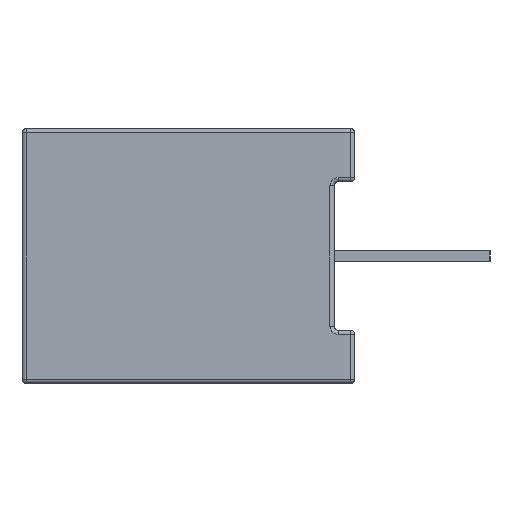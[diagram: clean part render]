
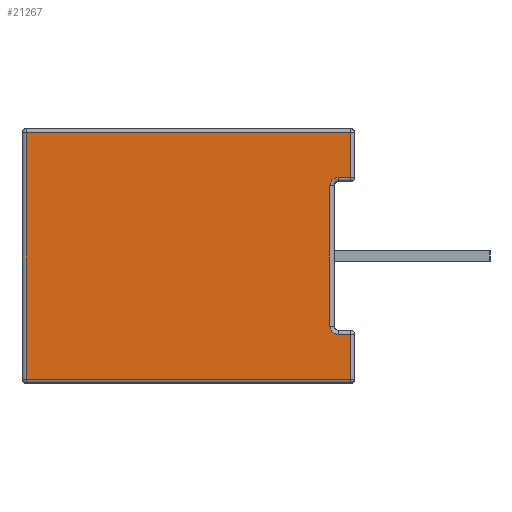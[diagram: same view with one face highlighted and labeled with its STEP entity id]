
A CAD part, left-side view. The second image highlights one B-rep face of the part: STEP entity #21267.
In plain terms, the highlighted planar face has unit normal (-1, 0, 0).
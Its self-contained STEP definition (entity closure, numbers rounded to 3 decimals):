
#480 = VERTEX_POINT ( 'NONE', #28809 ) ;
#870 = EDGE_LOOP ( 'NONE', ( #23750, #3345, #30536, #27809, #31950, #17855, #27903, #18422, #16939, #12593 ) ) ;
#992 = EDGE_CURVE ( 'NONE', #16763, #3542, #5324, .T. ) ;
#1749 = EDGE_CURVE ( 'NONE', #27770, #5372, #6080, .T. ) ;
#1977 = CARTESIAN_POINT ( 'NONE',  ( -12.05, 7.622, 3.01 ) ) ;
#2032 = CARTESIAN_POINT ( 'NONE',  ( -12.05, -0.1, -1.91 ) ) ;
#2306 = LINE ( 'NONE', #4430, #5248 ) ;
#2703 = DIRECTION ( 'NONE',  ( -1., 0., 0. ) ) ;
#2885 = CARTESIAN_POINT ( 'NONE',  ( -12.05, -0.1, -1.71 ) ) ;
#3345 = ORIENTED_EDGE ( 'NONE', *, *, #19711, .T. ) ;
#3542 = VERTEX_POINT ( 'NONE', #6099 ) ;
#4318 = DIRECTION ( 'NONE',  ( 0., -1., 0. ) ) ;
#4430 = CARTESIAN_POINT ( 'NONE',  ( -12.05, -0.408, 3.11 ) ) ;
#4590 = DIRECTION ( 'NONE',  ( 0., 0., -1. ) ) ;
#4772 = CARTESIAN_POINT ( 'NONE',  ( -12.05, 7.622, 3.11 ) ) ;
#5248 = VECTOR ( 'NONE', #10623, 1000. ) ;
#5324 = LINE ( 'NONE', #1977, #30354 ) ;
#5372 = VERTEX_POINT ( 'NONE', #2032 ) ;
#5728 = CIRCLE ( 'NONE', #23803, 0.2 ) ;
#6080 = CIRCLE ( 'NONE', #25831, 0.2 ) ;
#6099 = CARTESIAN_POINT ( 'NONE',  ( -12.05, 7.522, 3.01 ) ) ;
#6632 = CARTESIAN_POINT ( 'NONE',  ( -12.05, 0.1, 1.71 ) ) ;
#6735 = PLANE ( 'NONE',  #9307 ) ;
#7349 = CARTESIAN_POINT ( 'NONE',  ( -12.05, -0.1, 1.91 ) ) ;
#7633 = DIRECTION ( 'NONE',  ( 0., 1., 0. ) ) ;
#8695 = DIRECTION ( 'NONE',  ( 0., 0., 1. ) ) ;
#9307 = AXIS2_PLACEMENT_3D ( 'NONE', #4772, #31312, #9914 ) ;
#9821 = LINE ( 'NONE', #9990, #23953 ) ;
#9914 = DIRECTION ( 'NONE',  ( 0., 0., -1. ) ) ;
#9983 = LINE ( 'NONE', #28724, #24238 ) ;
#9990 = CARTESIAN_POINT ( 'NONE',  ( -12.05, 0., -1.91 ) ) ;
#10524 = DIRECTION ( 'NONE',  ( 0., 0., -1. ) ) ;
#10623 = DIRECTION ( 'NONE',  ( 0., 0., 1. ) ) ;
#10705 = LINE ( 'NONE', #29262, #23905 ) ;
#11191 = EDGE_CURVE ( 'NONE', #27770, #16516, #33436, .T. ) ;
#11328 = EDGE_CURVE ( 'NONE', #12758, #16516, #5728, .T. ) ;
#12593 = ORIENTED_EDGE ( 'NONE', *, *, #33108, .T. ) ;
#12747 = FACE_OUTER_BOUND ( 'NONE', #870, .T. ) ;
#12758 = VERTEX_POINT ( 'NONE', #7349 ) ;
#14477 = VERTEX_POINT ( 'NONE', #26769 ) ;
#14516 = EDGE_CURVE ( 'NONE', #3542, #14477, #10705, .T. ) ;
#14684 = VERTEX_POINT ( 'NONE', #28349 ) ;
#14867 = CARTESIAN_POINT ( 'NONE',  ( -12.05, 0.1, 3.11 ) ) ;
#14987 = CARTESIAN_POINT ( 'NONE',  ( -12.05, -0.408, 1.91 ) ) ;
#15768 = VECTOR ( 'NONE', #29290, 1000. ) ;
#16510 = DIRECTION ( 'NONE',  ( 0., 0., -1. ) ) ;
#16516 = VERTEX_POINT ( 'NONE', #6632 ) ;
#16763 = VERTEX_POINT ( 'NONE', #31007 ) ;
#16939 = ORIENTED_EDGE ( 'NONE', *, *, #14516, .T. ) ;
#17766 = EDGE_CURVE ( 'NONE', #33159, #16763, #2306, .T. ) ;
#17855 = ORIENTED_EDGE ( 'NONE', *, *, #32934, .T. ) ;
#18422 = ORIENTED_EDGE ( 'NONE', *, *, #992, .T. ) ;
#19711 = EDGE_CURVE ( 'NONE', #14684, #5372, #9821, .T. ) ;
#20772 = DIRECTION ( 'NONE',  ( 0., 1., 0. ) ) ;
#21267 = ADVANCED_FACE ( 'NONE', ( #12747 ), #6735, .F. ) ;
#22113 = VECTOR ( 'NONE', #8695, 1000. ) ;
#23750 = ORIENTED_EDGE ( 'NONE', *, *, #31753, .T. ) ;
#23803 = AXIS2_PLACEMENT_3D ( 'NONE', #28829, #31656, #4590 ) ;
#23811 = LINE ( 'NONE', #33895, #15768 ) ;
#23905 = VECTOR ( 'NONE', #10524, 1000. ) ;
#23953 = VECTOR ( 'NONE', #20772, 1000. ) ;
#24238 = VECTOR ( 'NONE', #4318, 1000. ) ;
#25831 = AXIS2_PLACEMENT_3D ( 'NONE', #2885, #2703, #16510 ) ;
#26298 = DIRECTION ( 'NONE',  ( 0., 0., 1. ) ) ;
#26769 = CARTESIAN_POINT ( 'NONE',  ( -12.05, 7.522, -3.01 ) ) ;
#27770 = VERTEX_POINT ( 'NONE', #28191 ) ;
#27809 = ORIENTED_EDGE ( 'NONE', *, *, #11191, .T. ) ;
#27903 = ORIENTED_EDGE ( 'NONE', *, *, #17766, .T. ) ;
#28191 = CARTESIAN_POINT ( 'NONE',  ( -12.05, 0.1, -1.71 ) ) ;
#28226 = VECTOR ( 'NONE', #26298, 1000. ) ;
#28349 = CARTESIAN_POINT ( 'NONE',  ( -12.05, -0.408, -1.91 ) ) ;
#28724 = CARTESIAN_POINT ( 'NONE',  ( -12.05, 7.622, -3.01 ) ) ;
#28809 = CARTESIAN_POINT ( 'NONE',  ( -12.05, -0.408, -3.01 ) ) ;
#28829 = CARTESIAN_POINT ( 'NONE',  ( -12.05, -0.1, 1.71 ) ) ;
#29262 = CARTESIAN_POINT ( 'NONE',  ( -12.05, 7.522, -3.11 ) ) ;
#29290 = DIRECTION ( 'NONE',  ( 0., -1., 0. ) ) ;
#30354 = VECTOR ( 'NONE', #7633, 1000. ) ;
#30536 = ORIENTED_EDGE ( 'NONE', *, *, #1749, .F. ) ;
#31007 = CARTESIAN_POINT ( 'NONE',  ( -12.05, -0.408, 3.01 ) ) ;
#31312 = DIRECTION ( 'NONE',  ( 1., 0., 0. ) ) ;
#31656 = DIRECTION ( 'NONE',  ( -1., 0., 0. ) ) ;
#31753 = EDGE_CURVE ( 'NONE', #480, #14684, #34104, .T. ) ;
#31950 = ORIENTED_EDGE ( 'NONE', *, *, #11328, .F. ) ;
#32934 = EDGE_CURVE ( 'NONE', #12758, #33159, #23811, .T. ) ;
#33108 = EDGE_CURVE ( 'NONE', #14477, #480, #9983, .T. ) ;
#33159 = VERTEX_POINT ( 'NONE', #14987 ) ;
#33436 = LINE ( 'NONE', #14867, #22113 ) ;
#33895 = CARTESIAN_POINT ( 'NONE',  ( -12.05, 7.622, 1.91 ) ) ;
#33929 = CARTESIAN_POINT ( 'NONE',  ( -12.05, -0.408, -1.81 ) ) ;
#34104 = LINE ( 'NONE', #33929, #28226 ) ;
